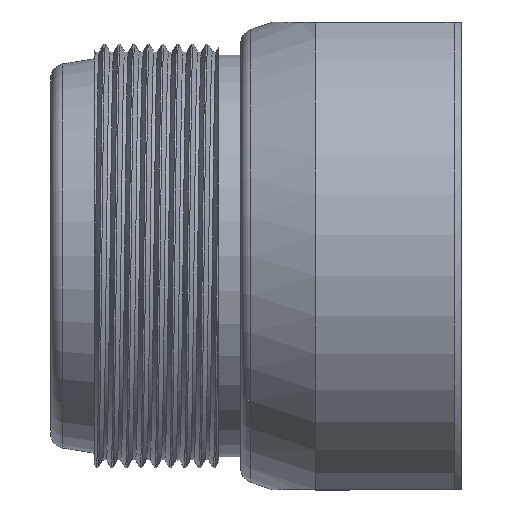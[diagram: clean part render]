
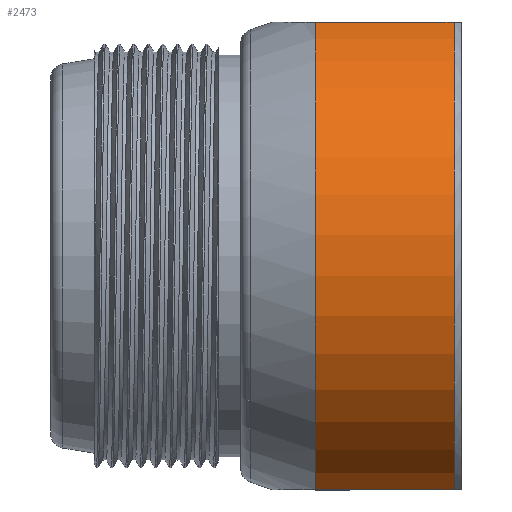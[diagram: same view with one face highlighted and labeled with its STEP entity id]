
A CAD part, top view. The second image highlights one B-rep face of the part: STEP entity #2473.
In plain terms, the highlighted cylindrical face has radius 17 mm (diameter 34 mm), a partial arc.
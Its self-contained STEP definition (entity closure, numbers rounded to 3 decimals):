
#22 = VERTEX_POINT ( 'NONE', #2194 ) ;
#65 = VERTEX_POINT ( 'NONE', #3261 ) ;
#260 = DIRECTION ( 'NONE',  ( 1., 0., 0. ) ) ;
#323 = CARTESIAN_POINT ( 'NONE',  ( 0., -16., 5.745 ) ) ;
#370 = CIRCLE ( 'NONE', #3236, 17. ) ;
#374 = AXIS2_PLACEMENT_3D ( 'NONE', #911, #260, #1968 ) ;
#398 = EDGE_CURVE ( 'NONE', #65, #1855, #370, .T. ) ;
#573 = CYLINDRICAL_SURFACE ( 'NONE', #374, 17. ) ;
#751 = EDGE_CURVE ( 'NONE', #65, #2135, #4239, .T. ) ;
#776 = CARTESIAN_POINT ( 'NONE',  ( -0.5, 16., 5.745 ) ) ;
#795 = LINE ( 'NONE', #4090, #1951 ) ;
#911 = CARTESIAN_POINT ( 'NONE',  ( 0., 0., 0. ) ) ;
#1110 = DIRECTION ( 'NONE',  ( 1., 0., 0. ) ) ;
#1123 = ORIENTED_EDGE ( 'NONE', *, *, #398, .T. ) ;
#1342 = DIRECTION ( 'NONE',  ( -1., 0., 0. ) ) ;
#1377 = DIRECTION ( 'NONE',  ( 0., 0., -1. ) ) ;
#1402 = VECTOR ( 'NONE', #1342, 1000. ) ;
#1473 = EDGE_LOOP ( 'NONE', ( #2716, #1123, #2377, #4155 ) ) ;
#1521 = CARTESIAN_POINT ( 'NONE',  ( -10., -16., 5.745 ) ) ;
#1855 = VERTEX_POINT ( 'NONE', #776 ) ;
#1945 = FACE_OUTER_BOUND ( 'NONE', #1473, .T. ) ;
#1951 = VECTOR ( 'NONE', #1110, 1000. ) ;
#1968 = DIRECTION ( 'NONE',  ( 0., 0., -1. ) ) ;
#2040 = DIRECTION ( 'NONE',  ( 1., 0., 0. ) ) ;
#2061 = CARTESIAN_POINT ( 'NONE',  ( -10., 0., 0. ) ) ;
#2135 = VERTEX_POINT ( 'NONE', #1521 ) ;
#2162 = EDGE_CURVE ( 'NONE', #22, #1855, #795, .T. ) ;
#2194 = CARTESIAN_POINT ( 'NONE',  ( -10., 16., 5.745 ) ) ;
#2377 = ORIENTED_EDGE ( 'NONE', *, *, #2162, .F. ) ;
#2473 = ADVANCED_FACE ( 'NONE', ( #1945 ), #573, .T. ) ;
#2716 = ORIENTED_EDGE ( 'NONE', *, *, #751, .F. ) ;
#2847 = DIRECTION ( 'NONE',  ( -1., 0., 0. ) ) ;
#2901 = CIRCLE ( 'NONE', #3654, 17. ) ;
#3236 = AXIS2_PLACEMENT_3D ( 'NONE', #4122, #2847, #3522 ) ;
#3261 = CARTESIAN_POINT ( 'NONE',  ( -0.5, -16., 5.745 ) ) ;
#3304 = EDGE_CURVE ( 'NONE', #22, #2135, #2901, .T. ) ;
#3522 = DIRECTION ( 'NONE',  ( 0., 0., -1. ) ) ;
#3654 = AXIS2_PLACEMENT_3D ( 'NONE', #2061, #2040, #1377 ) ;
#4090 = CARTESIAN_POINT ( 'NONE',  ( 0., 16., 5.745 ) ) ;
#4122 = CARTESIAN_POINT ( 'NONE',  ( -0.5, 0., 0. ) ) ;
#4155 = ORIENTED_EDGE ( 'NONE', *, *, #3304, .T. ) ;
#4239 = LINE ( 'NONE', #323, #1402 ) ;
